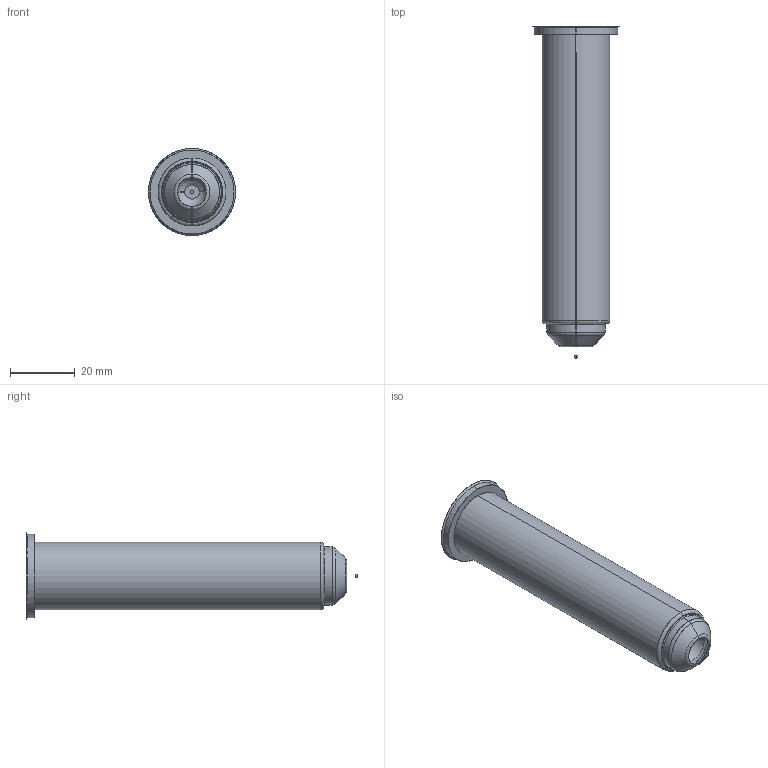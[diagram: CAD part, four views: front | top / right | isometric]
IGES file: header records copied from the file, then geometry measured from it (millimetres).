
Start section: SolidWorks IGES file using analytic representation for surfaces
Global section: file name: C:\Documents and Settings\ws-20\Desktop\TEM\Sede UGER2504-M-A C-100 L-130 Ød-1.0.IGS; native system: SolidWorks 2012; preprocessor: SolidWorks 2012; author: ws-20; date: 120405.111813; units: millimetre
Bounding box: 27 x 102.75 x 27 mm (x, y, z)
Surface area: 7514.5 mm2 (no closed solid volume)
Topology: 0 solids, 0 shells, 27 faces, 332 edges, 332 vertices
Faces by surface type: revolution 16, bspline 11
